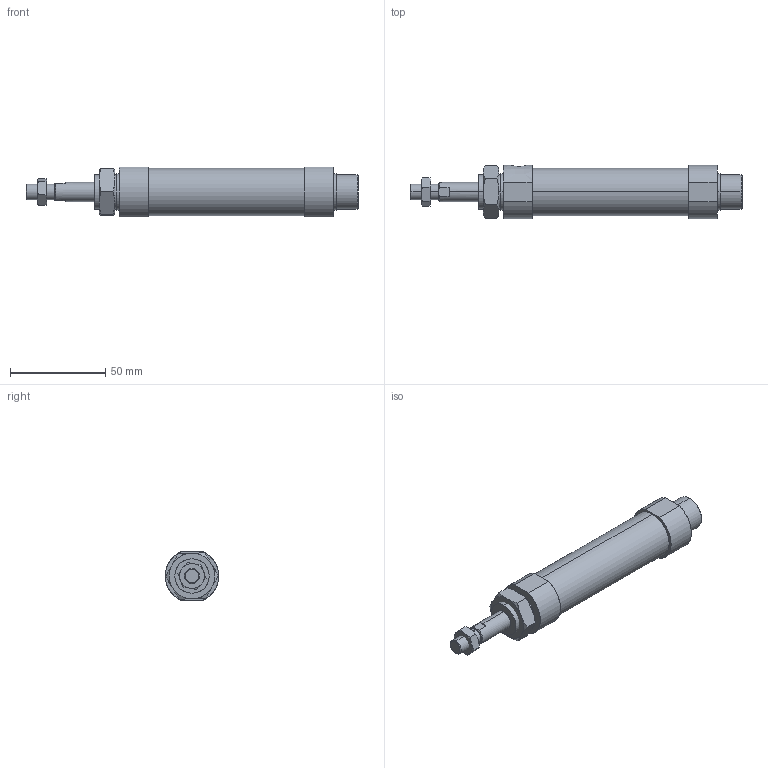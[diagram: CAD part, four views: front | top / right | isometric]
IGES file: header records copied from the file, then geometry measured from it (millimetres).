
Start section: SolidWorks IGES file using analytic representation for surfaces
Global section: file name: C:\Users\Toshiba\Desktop\J#0-20-15-N.IGS; native system: SolidWorks 2014; preprocessor: SolidWorks 2014; author: Toshiba; date: 160308.141531; units: millimetre
Bounding box: 174 x 28 x 26 mm (x, y, z)
Surface area: 15480.5 mm2 (no closed solid volume)
Topology: 0 solids, 0 shells, 89 faces, 1514 edges, 1514 vertices
Faces by surface type: bspline 59, revolution 30
